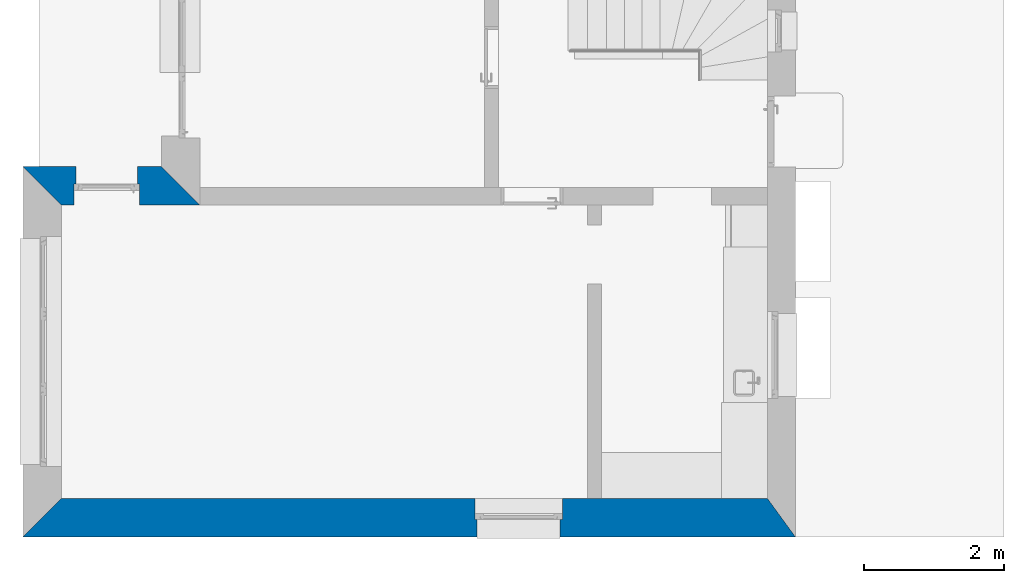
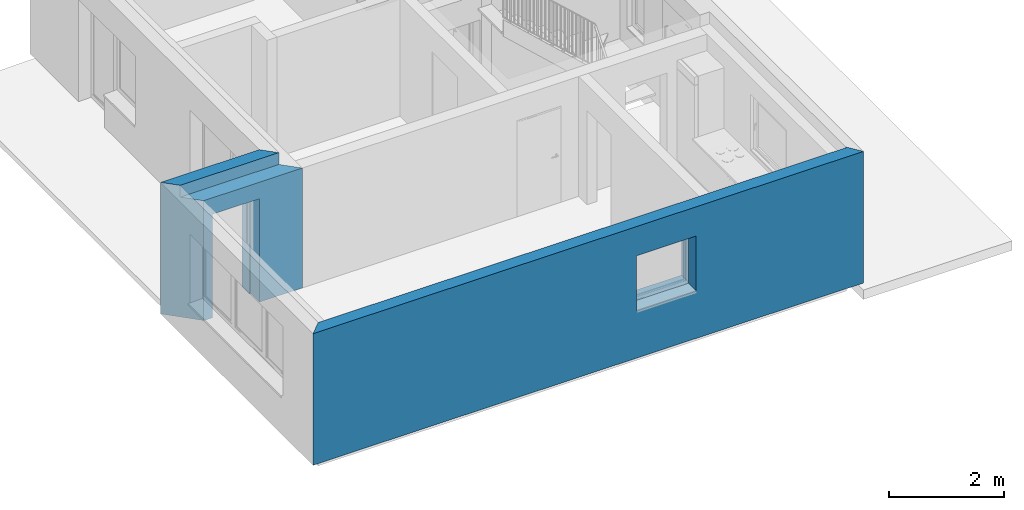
# One storey, part 6 of 18: 2 walls.
"""IFC2X3 building model written with IfcOpenShell, lengths in metres."""

from ifc_helpers import new_model, entity, si_unit, converted_unit, derived_unit, direction, frame, origin, place, context, subcontext, project, spatial, faceted_brep, material, layer, layer_set, type_object, element, save


model = new_model("IFC2X3")

# Units and contexts
model_context = context("Model", 3, precision=1e-05, world=origin(), true_north=direction((6.123233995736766e-17, 1.0)))
body_context = subcontext(model_context, "Body", "Model", "MODEL_VIEW")
ifc_project = project(units=[si_unit("LENGTHUNIT", "METRE"), si_unit("AREAUNIT", "SQUARE_METRE"), si_unit("VOLUMEUNIT", "CUBIC_METRE"), si_unit("POWERUNIT", "WATT"), derived_unit("USERDEFINED", [(si_unit("MASSUNIT", "GRAM", prefix="KILO"), 1), (si_unit("TIMEUNIT", "SECOND"), -3)]), derived_unit("THERMALRESISTANCEUNIT", [(si_unit("MASSUNIT", "GRAM", prefix="KILO"), -1), (si_unit("TIMEUNIT", "SECOND"), 3), (si_unit("THERMODYNAMICTEMPERATUREUNIT", "KELVIN"), 1)]), derived_unit("USERDEFINED", [(si_unit("MASSUNIT", "GRAM", prefix="KILO"), 1), (si_unit("TIMEUNIT", "SECOND"), -2), (si_unit("THERMODYNAMICTEMPERATUREUNIT", "KELVIN"), -1)]), derived_unit("THERMALTRANSMITTANCEUNIT", [(si_unit("MASSUNIT", "GRAM", prefix="KILO"), 1), (si_unit("TIMEUNIT", "SECOND"), -3), (si_unit("THERMODYNAMICTEMPERATUREUNIT", "KELVIN"), -1)]), converted_unit("PLANEANGLEUNIT", "DEGREE", entity("IfcPlaneAngleMeasure", 0.017453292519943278), si_unit("PLANEANGLEUNIT", "RADIAN"), dimensions=[0, 0, 0, 0, 0, 0, 0]), derived_unit("MOMENTOFINERTIAUNIT", [(si_unit("LENGTHUNIT", "METRE"), 4)])], contexts=[model_context])

# Site, building, storey
site_placement = place(None, origin())
site = spatial("IfcSite", under=ifc_project, at=site_placement, Name="Default", CompositionType="ELEMENT")
building_placement = place(site_placement, origin())
building = spatial("IfcBuilding", under=site, at=building_placement, CompositionType="ELEMENT")
storey_placement = place(building_placement, frame((0.0, 0.0, 2.6)))
storey = spatial("IfcBuildingStorey", under=building, at=storey_placement, Name="Erdgeschoss", CompositionType="ELEMENT", Elevation=2.6)

# Walls
ifc_material_1 = material(Name="Dämmung - hart")
ifc_layer_1 = layer(ifc_material_1, 0.24999999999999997)
ifc_material_2 = material(Name="Mauerwerk - Ziegel")
ifc_layer_2 = layer(ifc_material_2, 0.29999999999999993)
ifc_layer_set = layer_set([ifc_layer_1, ifc_layer_2], Name="Basiswand:Ziegel+WD hart 300+250")
wall_type = type_object("IfcWallType", Name="Basiswand:Ziegel+WD hart 300+250", PredefinedType="STANDARD", material=ifc_layer_set)
wall_1_placement = place(storey_placement, frame((30.086720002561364, 20.327272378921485, 0.0), z_axis=(0.0, 0.0, 1.0), x_axis=(-1.0, 0.0, 0.0)))
element("IfcWall", 1, at=wall_1_placement, inside=storey, type_object=wall_type, Name="Basiswand:Ziegel+WD hart 300+250", ObjectType="Basiswand:Ziegel+WD hart 300+250", context=body_context, shape_type="Brep", body=[
    faceted_brep([(2.5358787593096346, -0.27500000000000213, 2.8000000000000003), (0.550000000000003, -0.27500000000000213, 2.8000000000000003), (0.550000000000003, -0.27500000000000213, 0.0), (0.8958787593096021, -0.27500000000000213, 0.0), (0.8958787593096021, -0.27500000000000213, 2.170000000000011), (1.7758787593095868, -0.27500000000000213, 2.170000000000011), (1.7758787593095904, -0.27500000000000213, 0.0), (2.5358787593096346, -0.27500000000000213, 0.0), (1.9858787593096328, 0.2749999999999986, 0.0), (1.805878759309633, 0.2749999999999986, 0.0), (1.8058787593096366, 0.2749999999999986, 2.200000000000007), (0.8658787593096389, 0.2749999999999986, 2.200000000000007), (0.8658787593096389, 0.2749999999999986, 0.0), (0.0, 0.2749999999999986, 0.0), (0.0, 0.2749999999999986, 2.550000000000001), (1.9858787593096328, 0.2749999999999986, 2.550000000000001), (0.8658787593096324, -0.025000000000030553, 0.0), (0.8958787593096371, -0.025000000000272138, 0.0), (2.285878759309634, -0.024999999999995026, 2.8000000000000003), (0.29999999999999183, -0.024999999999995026, 2.8000000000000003), (2.2858787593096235, -0.024999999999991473, 2.550000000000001), (0.2999999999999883, -0.024999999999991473, 2.550000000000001), (1.8058787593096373, -0.025000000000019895, 2.200000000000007), (0.8658787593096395, -0.025000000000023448, 2.200000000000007), (1.8058787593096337, -0.025000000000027, 0.0), (1.775878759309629, -0.025000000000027, 0.0), (1.775878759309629, -0.025000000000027, 2.170000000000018), (0.8958787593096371, -0.025000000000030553, 2.170000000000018)], [[[0, 1, 2, 3, 4, 5, 6, 7]], [[8, 9, 10, 11, 12, 13, 14, 15]], [[2, 13, 12, 16, 17, 3]], [[1, 0, 18, 19]], [[0, 7, 8, 15, 20, 18]], [[13, 2, 1, 19, 21, 14]], [[21, 20, 15, 14]], [[20, 21, 19, 18]], [[22, 23, 11, 10]], [[22, 10, 9, 24]], [[11, 23, 16, 12]], [[23, 22, 24, 25, 26, 27, 17, 16]], [[17, 27, 4, 3]], [[26, 25, 6, 5]], [[27, 26, 5, 4]], [[8, 7, 6, 25, 24, 9]]]),
])
wall_2_placement = place(storey_placement, frame((27.550841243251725, 15.567272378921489, 0.0)))
element("IfcWall", 2, at=wall_2_placement, inside=storey, type_object=wall_type, Name="Basiswand:Ziegel+WD hart 300+250", ObjectType="Basiswand:Ziegel+WD hart 300+250", context=body_context, shape_type="Brep", body=[
    faceted_brep([(0.0, -0.2749999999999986, 0.0), (11.075878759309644, -0.27500000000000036, 0.0), (11.075878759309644, -0.27500000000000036, 2.8000000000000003), (0.0, -0.2749999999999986, 2.8000000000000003), (7.70291364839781, -0.27500000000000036, 2.176971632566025), (7.70291364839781, -0.27500000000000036, 1.0169716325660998), (6.512913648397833, -0.2749999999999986, 1.016971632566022), (6.512913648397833, -0.2749999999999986, 2.176971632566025), (10.675878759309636, 0.27500000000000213, 0.0), (8.292913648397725, 0.27500000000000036, 0.0), (8.09291364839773, 0.27500000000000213, 0.0), (0.5499999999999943, 0.27500000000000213, 0.0), (0.5499999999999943, 0.27500000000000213, 2.550000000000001), (8.09291364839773, 0.27500000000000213, 2.550000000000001), (8.292913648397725, 0.27500000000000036, 2.550000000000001), (10.675878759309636, 0.27500000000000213, 2.550000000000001), (7.732913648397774, 0.27500000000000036, 2.206971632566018), (6.482913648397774, 0.27500000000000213, 2.206971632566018), (6.482913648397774, 0.27500000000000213, 1.0069716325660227), (7.732913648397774, 0.27500000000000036, 1.0069716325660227), (10.875878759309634, 0.0, 2.8000000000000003), (10.875878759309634, -0.025000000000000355, 2.8000000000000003), (0.24999999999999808, -0.02499999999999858, 2.8000000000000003), (0.24999999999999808, -0.024999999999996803, 2.550000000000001), (10.875878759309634, 0.0, 2.550000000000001), (10.875878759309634, -0.025000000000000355, 2.550000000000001), (7.7329136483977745, -0.025000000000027, 2.206971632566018), (6.4829136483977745, -0.025000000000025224, 2.206971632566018), (6.4829136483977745, -0.025000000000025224, 1.0069716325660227), (7.7329136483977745, -0.025000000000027, 1.0069716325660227), (7.702913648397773, -0.025000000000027, 1.026971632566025), (7.702913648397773, -0.025000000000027, 2.1769716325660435), (6.512913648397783, -0.025000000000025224, 2.1769716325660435), (6.512913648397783, -0.025000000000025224, 1.0269716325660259)], [[[0, 1, 2, 3], [4, 5, 6, 7]], [[8, 9, 10, 11, 12, 13, 14, 15], [16, 17, 18, 19]], [[1, 0, 11, 10, 9, 8]], [[3, 2, 20, 21, 22]], [[0, 3, 22, 23, 12, 11]], [[2, 1, 8, 15, 24, 20]], [[23, 25, 24, 15, 14, 13, 12]], [[25, 23, 22, 21]], [[26, 27, 17, 16]], [[18, 28, 29, 19]], [[17, 27, 28, 18]], [[26, 16, 19, 29]], [[27, 26, 29, 28], [30, 31, 32, 33]], [[31, 30, 5, 4]], [[30, 33, 6, 5]], [[33, 32, 7, 6]], [[32, 31, 4, 7]], [[25, 21, 20, 24]]]),
])

save(model, "model.ifc")
